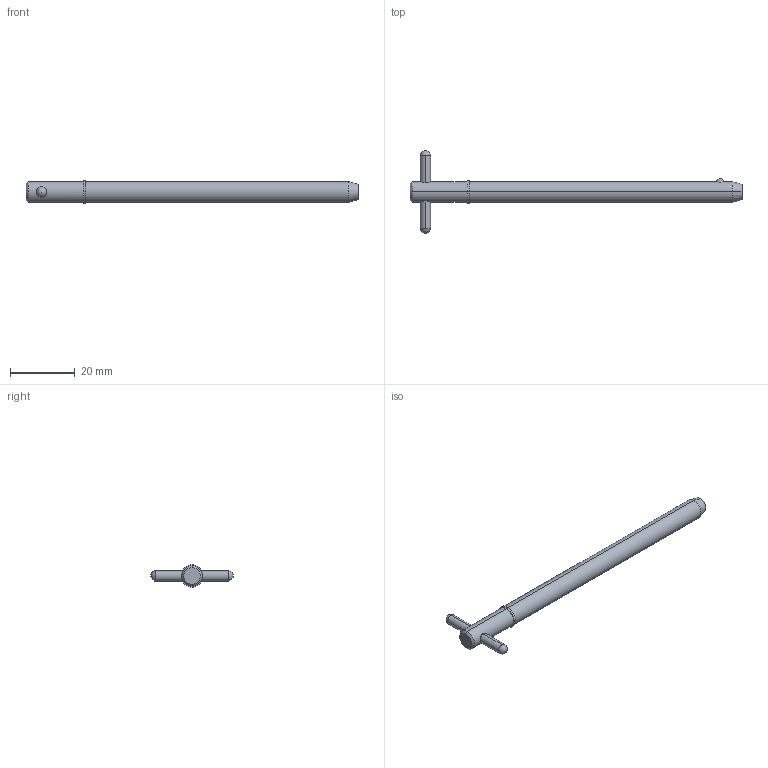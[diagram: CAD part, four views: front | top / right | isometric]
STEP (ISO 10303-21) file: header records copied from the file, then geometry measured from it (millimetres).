
FILE_DESCRIPTION (( 'STEP AP203' ), '1' );
FILE_NAME ('33018.W2530.step', '2024-11-19T17:08:39', ( '' ), ( '' ), 'SwSTEP 2.0', 'SolidWorks 2019', '' );
FILE_SCHEMA (( 'CONFIG_CONTROL_DESIGN' ));
Length unit declared in the file: millimetre
Products named in the file (3): Part1_33018.W2530; Part2_33018.W2530; 33018.W2530
Assembly tree (2 placements, depth 2):
  33018.W2530
    Part1_33018.W2530
    Part2_33018.W2530
Bounding box: 102.41 x 25.4 x 6.99 mm (x, y, z)
Volume: 3368.5 mm3; surface area: 2392.5 mm2
Topology: 2 solids, 2 shells, 22 faces, 47 edges, 30 vertices
Faces by surface type: cylinder 10, sphere 4, cone 4, plane 4
Entity records: 993 total; most frequent: CARTESIAN_POINT 236, DIRECTION 110, ORIENTED_EDGE 82, AXIS2_PLACEMENT_3D 48, EDGE_CURVE 41, EDGE_LOOP 27, VERTEX_POINT 26, PERSON_AND_ORGANIZATION 26
